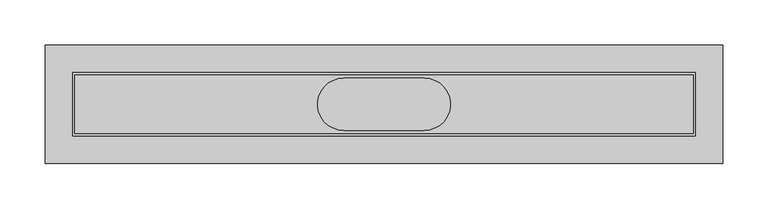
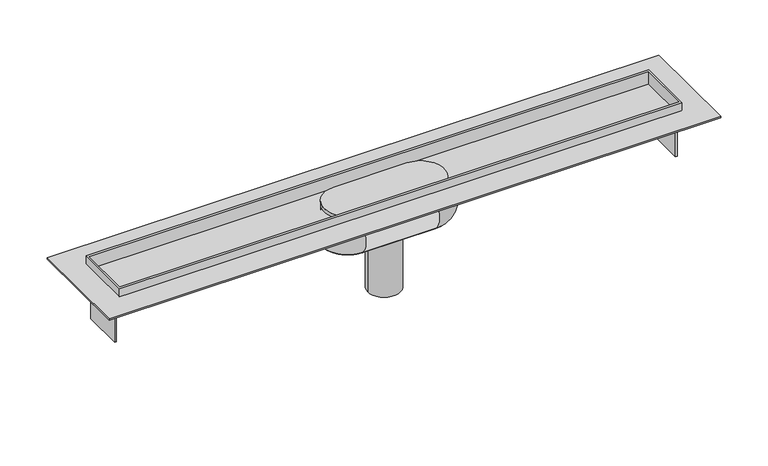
"""IFC4 building model written with IfcOpenShell, lengths in millimetres: sanitary terminal geometry, PF_ST_UN_ShowerDrain C INT_ACO : surrounding flange with vertical connection."""

from ifc_helpers import new_model, si_unit, point, frame, origin, origin_with_axes, place, context, project, spatial, polyline, circle_curve, ellipse_curve, trimmed, outline, extrude, faceted_brep, source, transform, mapped, element, save
from ifc_brep_helpers import plane_surface, cylinder_surface, revolved_surface, advanced_brep


def sanitary_terminal_73b28d87(model_context):
    return source(origin(), model_context, "Body", "SolidModel", [
        advanced_brep(
        [(-20.0, 0.0, -126.0), (20.0, 0.0, -126.0), (0.0, 0.0, -126.0), (-20.0, 0.0, -50.8002048), (20.0, 0.0, -50.8002048), (0.0, 0.0, -50.8002048)],
        [
            (0, 1, circle_curve(frame((0.0, 0.0, -126.0), z_axis=(0.0, 0.0, -1.0), x_axis=(1.0, 0.0, 0.0)), 20.0)),
            (1, 2),
            (2, 0),
            (3, 4, circle_curve(frame((0.0, 0.0, -50.8002048), z_axis=(0.0, 0.0, -1.0), x_axis=(1.0, 0.0, 0.0)), 20.0)),
            (4, 1),
            (0, 3),
            (4, 3, circle_curve(frame((0.0, 0.0, -50.8002048), z_axis=(0.0, 0.0, -1.0), x_axis=(1.0, 0.0, 0.0)), 20.0)),
            (0, 1, circle_curve(frame((0.0, 0.0, -126.0), z_axis=(0.0, 0.0, 1.0), x_axis=(1.0, 0.0, 0.0)), 20.0)),
            (5, 4),
            (3, 5),
        ],
        [
            plane_surface(frame((0.0, 0.0, -126.0), z_axis=(0.0, 0.0, -1.0), x_axis=(1.0, 0.0, 0.0))),
            cylinder_surface(frame((0.0, 0.0, 5.0), z_axis=(0.0, 0.0, 1.0), x_axis=(1.0, 0.0, 0.0)), 20.0),
            plane_surface(frame((0.0, 0.0, -50.8002048), z_axis=(0.0, 0.0, 1.0), x_axis=(1.0, 0.0, 0.0))),
        ],
        [
            (0, [[1, 2, 3]]),
            (1, [[4, 5, -1, 6]]),
            (1, [[7, -6, 8, -5]]),
            (0, [[-8, -3, -2]]),
            (2, [[9, -4, 10]]),
            (2, [[-10, -7, -9]]),
        ],
    ),
        advanced_brep(
        [(44.4045194, 28.757915, -8.9513005), (-44.4045194, 28.757915, -8.9513005), (-44.4045194, 28.757915, 0.0), (44.4045194, 28.757915, 0.0), (44.4045194, -28.757915, 0.0), (-44.4045194, -28.757915, 0.0), (-44.4045194, -28.757915, -8.9513005), (44.4045194, -28.757915, -8.9513005), (-44.4045194, -32.7597942, -46.8418698), (44.4045194, -32.7597942, -46.8418698), (-44.4045194, -22.4479791, -50.8002048), (44.4045194, -22.4479791, -50.8002048), (44.4045194, 22.4479791, -50.8002048), (-44.4045194, 22.4479791, -50.8002048), (-44.4045194, 32.7597942, -46.8418698), (44.4045194, 32.7597942, -46.8418698)],
        [
            (0, 1),
            (1, 2),
            (2, 3),
            (3, 0),
            (4, 5),
            (5, 6),
            (6, 7),
            (7, 4),
            (6, 8, circle_curve(frame((-44.4045194, -14.7644207, -29.5858655), z_axis=(1.0, 0.0, 0.0), x_axis=(0.0, 1.0, 0.0)), 24.9319705)),
            (8, 9),
            (9, 7, circle_curve(frame((44.4045194, -14.7644207, -29.5858655), z_axis=(-1.0, 0.0, 0.0), x_axis=(0.0, 1.0, 0.0)), 24.9319705)),
            (8, 10, circle_curve(frame((-44.4045194, -23.3982382, -37.8649485), z_axis=(1.0, 0.0, 0.0), x_axis=(0.0, 1.0, 0.0)), 12.9701136)),
            (10, 11),
            (11, 9, circle_curve(frame((44.4045194, -23.3982382, -37.8649485), z_axis=(-1.0, 0.0, 0.0), x_axis=(0.0, 1.0, 0.0)), 12.9701136)),
            (12, 13),
            (13, 14, circle_curve(frame((-44.4045194, 23.3982382, -37.8649485), z_axis=(1.0, 0.0, 0.0), x_axis=(0.0, -1.0, 0.0)), 12.9701136)),
            (14, 15),
            (15, 12, circle_curve(frame((44.4045194, 23.3982382, -37.8649485), z_axis=(-1.0, 0.0, 0.0), x_axis=(0.0, -1.0, 0.0)), 12.9701136)),
            (0, 15, circle_curve(frame((44.4045194, 14.7644207, -29.5858655), z_axis=(-1.0, 0.0, 0.0), x_axis=(0.0, -1.0, 0.0)), 24.9319705)),
            (14, 1, circle_curve(frame((-44.4045194, 14.7644207, -29.5858655), z_axis=(1.0, 0.0, 0.0), x_axis=(0.0, -1.0, 0.0)), 24.9319705)),
            (5, 2, circle_curve(frame((-44.4045194, 0.0, 0.0), z_axis=(0.0, 0.0, -1.0), x_axis=(0.0, 1.0, 0.0)), 28.757915)),
            (1, 6, circle_curve(frame((-44.4045194, 0.0, -8.9513005), z_axis=(0.0, 0.0, 1.0), x_axis=(0.0, 1.0, 0.0)), 28.757915)),
            (4, 3, circle_curve(frame((44.4045194, 0.0, 0.0), z_axis=(0.0, 0.0, 1.0), x_axis=(0.0, 1.0, 0.0)), 28.757915)),
            (10, 13, circle_curve(frame((-44.4045194, 0.0, -50.8002048), z_axis=(0.0, 0.0, -1.0), x_axis=(0.0, 1.0, 0.0)), 22.4479791)),
            (12, 11, circle_curve(frame((44.4045194, 0.0, -50.8002048), z_axis=(0.0, 0.0, -1.0), x_axis=(0.0, 1.0, 0.0)), 22.4479791)),
            (8, 14, circle_curve(frame((-44.4045194, 0.0, -46.8418698), z_axis=(0.0, 0.0, -1.0), x_axis=(0.0, 1.0, 0.0)), 32.7597942)),
            (7, 0, circle_curve(frame((44.4045194, 0.0, -8.9513005), z_axis=(0.0, 0.0, 1.0), x_axis=(0.0, 1.0, 0.0)), 28.757915)),
            (15, 9, circle_curve(frame((44.4045194, 0.0, -46.8418698), z_axis=(0.0, 0.0, -1.0), x_axis=(0.0, 1.0, 0.0)), 32.7597942)),
        ],
        [
            plane_surface(frame((44.4045194, 28.757915, -8.9513005), z_axis=(0.0, 1.0, 0.0), x_axis=(-1.0, 0.0, 0.0))),
            plane_surface(frame((44.4045194, -28.757915, 0.0), z_axis=(0.0, -1.0, 0.0), x_axis=(-1.0, 0.0, 0.0))),
            cylinder_surface(frame((-44.4045194, -14.7644207, -29.5858655), z_axis=(1.0, 0.0, 0.0), x_axis=(0.0, 1.0, 0.0)), 24.9319705),
            cylinder_surface(frame((-44.4045194, -23.3982382, -37.8649485), z_axis=(1.0, 0.0, 0.0), x_axis=(0.0, 1.0, 0.0)), 12.9701136),
            cylinder_surface(frame((-44.4045194, 23.3982382, -37.8649485), z_axis=(1.0, 0.0, 0.0), x_axis=(0.0, -1.0, 0.0)), 12.9701136),
            cylinder_surface(frame((-44.4045194, 14.7644207, -29.5858655), z_axis=(1.0, 0.0, 0.0), x_axis=(0.0, -1.0, 0.0)), 24.9319705),
            cylinder_surface(frame((-44.4045194, 0.0, 20.0), z_axis=(0.0, 0.0, 1.0), x_axis=(0.0, 1.0, 0.0)), 28.757915),
            plane_surface(frame((-44.4045194, 0.0, 0.0), z_axis=(0.0, 0.0, 1.0), x_axis=(0.0, 1.0, 0.0))),
            plane_surface(frame((-44.4045194, 0.0, -50.8002048), z_axis=(0.0, 0.0, -1.0), x_axis=(0.0, 1.0, 0.0))),
            revolved_surface(trimmed(ellipse_curve(frame((-44.4045194, 23.3982382, -37.8649485), z_axis=(1.0, 0.0, 0.0), x_axis=(0.0, -1.0, 0.0)), 12.9701136, 12.9701136), [point((-44.4045194, 22.4479791, -50.8002048))], [point((-44.4045194, 32.7597942, -46.8418698))], True, "CARTESIAN"), (-44.4045194, 0.0, 20.0), (0.0, 0.0, 1.0)),
            revolved_surface(trimmed(ellipse_curve(frame((-44.4045194, 14.7644207, -29.5858655), z_axis=(1.0, 0.0, 0.0), x_axis=(0.0, -1.0, 0.0)), 24.9319705, 24.9319705), [point((-44.4045194, 32.7597942, -46.8418698))], [point((-44.4045194, 28.757915, -8.9513005))], True, "CARTESIAN"), (-44.4045194, 0.0, 20.0), (0.0, 0.0, 1.0)),
            cylinder_surface(frame((44.4045194, 0.0, 20.0), z_axis=(0.0, 0.0, 1.0), x_axis=(0.0, 1.0, 0.0)), 28.757915),
            revolved_surface(trimmed(ellipse_curve(frame((44.4045194, 23.3982382, -37.8649485), z_axis=(1.0, 0.0, 0.0), x_axis=(0.0, -1.0, 0.0)), 12.9701136, 12.9701136), [point((44.4045194, 22.4479791, -50.8002048))], [point((44.4045194, 32.7597942, -46.8418698))], True, "CARTESIAN"), (44.4045194, 0.0, 20.0), (0.0, 0.0, 1.0)),
            revolved_surface(trimmed(ellipse_curve(frame((44.4045194, 14.7644207, -29.5858655), z_axis=(1.0, 0.0, 0.0), x_axis=(0.0, -1.0, 0.0)), 24.9319705, 24.9319705), [point((44.4045194, 32.7597942, -46.8418698))], [point((44.4045194, 28.757915, -8.9513005))], True, "CARTESIAN"), (44.4045194, 0.0, 20.0), (0.0, 0.0, 1.0)),
        ],
        [
            (0, [[1, 2, 3, 4]]),
            (1, [[5, 6, 7, 8]]),
            (2, [[-7, 9, 10, 11]]),
            (3, [[-10, 12, 13, 14]]),
            (4, [[15, 16, 17, 18]]),
            (5, [[-1, 19, -17, 20]]),
            (6, [[21, -2, 22, -6]]),
            (7, [[-21, -5, 23, -3]]),
            (8, [[24, -15, 25, -13]]),
            (9, [[-24, -12, 26, -16]]),
            (10, [[-22, -20, -26, -9]]),
            (11, [[27, -4, -23, -8]]),
            (12, [[-25, -18, 28, -14]]),
            (13, [[-27, -11, -28, -19]]),
        ],
    ),
        faceted_brep([(342.5, 35.0, 12.0), (-342.5, 35.0, 12.0), (-342.5, -35.0, 12.0), (342.5, -35.0, 12.0), (-340.5, 32.0, 12.0), (340.5, 32.0, 12.0), (340.5, -32.0, 12.0), (-340.5, -32.0, 12.0), (342.5, -35.0, -6.0), (-342.5, -35.0, -6.0), (-342.5, -25.0, -6.0), (-340.5, -25.0, -6.0), (-340.5, 25.0, -6.0), (-342.5, 25.0, -6.0), (-342.5, 35.0, -6.0), (342.5, 35.0, -6.0), (342.5, 25.0, -6.0), (340.5, 25.0, -6.0), (340.5, -25.0, -6.0), (342.5, -25.0, -6.0), (-342.5, 25.0, -63.0), (-342.5, -25.0, -63.0), (342.5, -25.0, -63.0), (342.5, 25.0, -63.0), (340.5, 32.0, -4.0), (-340.5, 32.0, -4.0), (-340.5, -32.0, -4.0), (340.5, -32.0, -4.0), (340.5, -25.0, -63.0), (-340.5, -25.0, -63.0), (-340.5, 25.0, -63.0), (340.5, 25.0, -63.0)], [[[0, 1, 2, 3], [4, 5, 6, 7]], [[8, 9, 10, 11, 12, 13, 14, 15, 16, 17, 18, 19]], [[1, 0, 15, 14]], [[2, 1, 14, 13, 20, 21, 10, 9]], [[3, 2, 9, 8]], [[0, 3, 8, 19, 22, 23, 16, 15]], [[24, 25, 26, 27]], [[25, 24, 5, 4]], [[26, 25, 4, 7]], [[27, 26, 7, 6]], [[24, 27, 6, 5]], [[22, 19, 18, 28]], [[21, 29, 11, 10]], [[20, 13, 12, 30]], [[23, 31, 17, 16]], [[29, 21, 20, 30]], [[11, 29, 30, 12]], [[28, 18, 17, 31]], [[22, 28, 31, 23]]]),
        extrude(outline(polyline([(372.5, 65.0), (372.5, -65.0), (-372.5, -65.0), (-372.5, 65.0), (372.5, 65.0)]), holes=[polyline([(340.5, 32.0), (-340.5, 32.0), (-340.5, -32.0), (340.5, -32.0), (340.5, 32.0)])]), origin_with_axes(), (0.0, 0.0, 1.0), 2.0),
    ])


if __name__ == "__main__":
    model = new_model("IFC4")
    model_context = context("Model", 3, world=origin())
    ifc_project = project(units=[si_unit("LENGTHUNIT", "METRE", prefix="MILLI")], contexts=[model_context])
    site = spatial("IfcSite", under=ifc_project)
    building = spatial("IfcBuilding", under=site)
    placement = place(None, origin())
    sanitary_terminal_shape = sanitary_terminal_73b28d87(model_context)
    element("IfcSanitaryTerminal", 1, ObjectType="PF_ST_UN_ShowerDrain C INT_ACO : surrounding flange with vertical connection", at=placement, inside=building, context=model_context, shape_type="MappedRepresentation", body=[
        mapped(sanitary_terminal_shape, transform((0.0, 0.0, 0.0), x_axis=(1.0, 0.0, 0.0), y_axis=(0.0, 1.0, 0.0), z_axis=(0.0, 0.0, 1.0))),
    ])
    save(model, "model.ifc")
